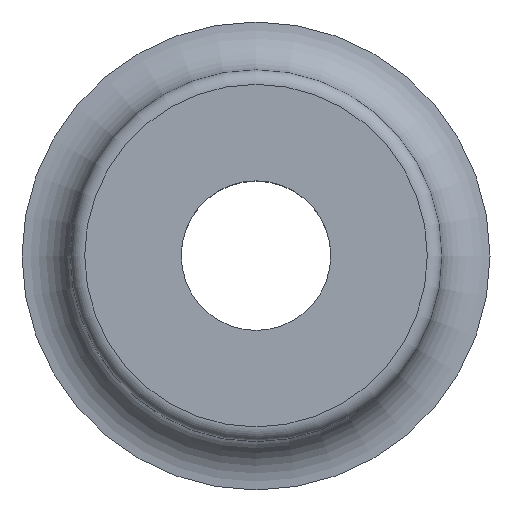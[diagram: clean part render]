
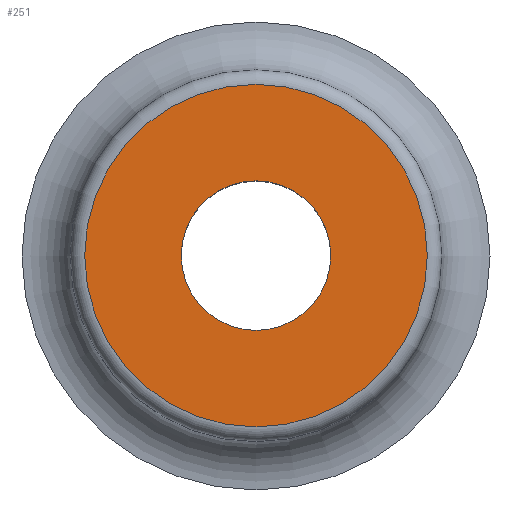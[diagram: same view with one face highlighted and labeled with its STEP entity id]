
A CAD part, top view. The second image highlights one B-rep face of the part: STEP entity #251.
In plain terms, the highlighted planar face has unit normal (0, 0, 1).
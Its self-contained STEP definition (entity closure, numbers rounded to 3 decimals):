
#74 = CYLINDRICAL_SURFACE('',#75,1.55);
#75 = AXIS2_PLACEMENT_3D('',#76,#77,#78);
#76 = CARTESIAN_POINT('',(0.,0.,-46.7));
#77 = DIRECTION('',(0.,0.,1.));
#78 = DIRECTION('',(1.,0.,0.));
#145 = EDGE_CURVE('',#146,#146,#148,.T.);
#146 = VERTEX_POINT('',#147);
#147 = CARTESIAN_POINT('',(1.55,0.,-41.8));
#148 = SURFACE_CURVE('',#149,(#154,#161),.PCURVE_S1.);
#149 = CIRCLE('',#150,1.55);
#150 = AXIS2_PLACEMENT_3D('',#151,#152,#153);
#151 = CARTESIAN_POINT('',(0.,0.,-41.8));
#152 = DIRECTION('',(0.,0.,1.));
#153 = DIRECTION('',(1.,0.,-0.));
#154 = PCURVE('',#74,#155);
#155 = DEFINITIONAL_REPRESENTATION('',(#156),#160);
#156 = LINE('',#157,#158);
#157 = CARTESIAN_POINT('',(0.,4.9));
#158 = VECTOR('',#159,1.);
#159 = DIRECTION('',(1.,0.));
#160 = ( GEOMETRIC_REPRESENTATION_CONTEXT(2) 
PARAMETRIC_REPRESENTATION_CONTEXT() REPRESENTATION_CONTEXT('2D SPACE',''
  ) );
#161 = PCURVE('',#162,#167);
#162 = PLANE('',#163);
#163 = AXIS2_PLACEMENT_3D('',#164,#165,#166);
#164 = CARTESIAN_POINT('',(0.,0.,-41.8));
#165 = DIRECTION('',(0.,0.,1.));
#166 = DIRECTION('',(1.,0.,0.));
#167 = DEFINITIONAL_REPRESENTATION('',(#168),#172);
#168 = CIRCLE('',#169,1.55);
#169 = AXIS2_PLACEMENT_2D('',#170,#171);
#170 = CARTESIAN_POINT('',(0.,0.));
#171 = DIRECTION('',(1.,0.));
#172 = ( GEOMETRIC_REPRESENTATION_CONTEXT(2) 
PARAMETRIC_REPRESENTATION_CONTEXT() REPRESENTATION_CONTEXT('2D SPACE',''
  ) );
#239 = TOROIDAL_SURFACE('',#240,3.55,0.3);
#240 = AXIS2_PLACEMENT_3D('',#241,#242,#243);
#241 = CARTESIAN_POINT('',(0.,0.,-42.1));
#242 = DIRECTION('',(0.,0.,1.));
#243 = DIRECTION('',(1.,0.,-0.));
#251 = ADVANCED_FACE('',(#252,#278),#162,.T.);
#252 = FACE_BOUND('',#253,.T.);
#253 = EDGE_LOOP('',(#254));
#254 = ORIENTED_EDGE('',*,*,#255,.T.);
#255 = EDGE_CURVE('',#256,#256,#258,.T.);
#256 = VERTEX_POINT('',#257);
#257 = CARTESIAN_POINT('',(3.55,0.,-41.8));
#258 = SURFACE_CURVE('',#259,(#264,#271),.PCURVE_S1.);
#259 = CIRCLE('',#260,3.55);
#260 = AXIS2_PLACEMENT_3D('',#261,#262,#263);
#261 = CARTESIAN_POINT('',(0.,0.,-41.8));
#262 = DIRECTION('',(0.,0.,1.));
#263 = DIRECTION('',(1.,0.,-0.));
#264 = PCURVE('',#162,#265);
#265 = DEFINITIONAL_REPRESENTATION('',(#266),#270);
#266 = CIRCLE('',#267,3.55);
#267 = AXIS2_PLACEMENT_2D('',#268,#269);
#268 = CARTESIAN_POINT('',(0.,0.));
#269 = DIRECTION('',(1.,0.));
#270 = ( GEOMETRIC_REPRESENTATION_CONTEXT(2) 
PARAMETRIC_REPRESENTATION_CONTEXT() REPRESENTATION_CONTEXT('2D SPACE',''
  ) );
#271 = PCURVE('',#239,#272);
#272 = DEFINITIONAL_REPRESENTATION('',(#273),#277);
#273 = LINE('',#274,#275);
#274 = CARTESIAN_POINT('',(0.,1.571));
#275 = VECTOR('',#276,1.);
#276 = DIRECTION('',(1.,0.));
#277 = ( GEOMETRIC_REPRESENTATION_CONTEXT(2) 
PARAMETRIC_REPRESENTATION_CONTEXT() REPRESENTATION_CONTEXT('2D SPACE',''
  ) );
#278 = FACE_BOUND('',#279,.T.);
#279 = EDGE_LOOP('',(#280));
#280 = ORIENTED_EDGE('',*,*,#145,.F.);
